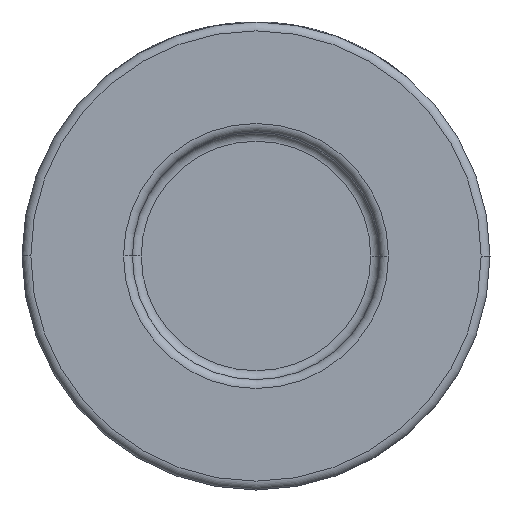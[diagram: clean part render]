
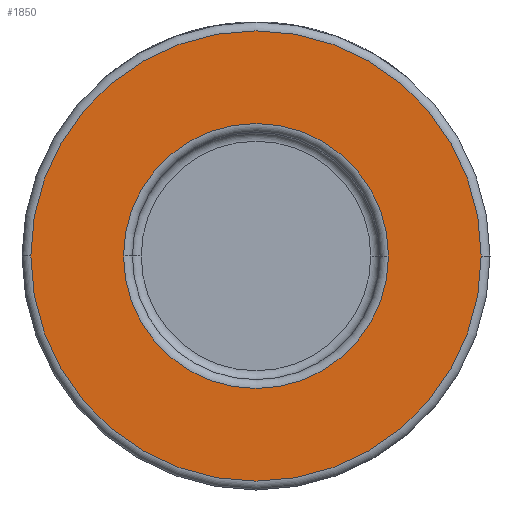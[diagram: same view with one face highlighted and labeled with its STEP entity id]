
A CAD part, front view. The second image highlights one B-rep face of the part: STEP entity #1850.
In plain terms, the highlighted planar face has unit normal (0, -1, 0).
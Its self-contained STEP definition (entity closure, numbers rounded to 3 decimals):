
#157 = DIRECTION ( 'NONE',  ( 1., 0., 0. ) ) ;
#228 = AXIS2_PLACEMENT_3D ( 'NONE', #3533, #3880, #2493 ) ;
#305 = ORIENTED_EDGE ( 'NONE', *, *, #1425, .T. ) ;
#351 = EDGE_LOOP ( 'NONE', ( #305, #4305 ) ) ;
#448 = CARTESIAN_POINT ( 'NONE',  ( 0., -20., 0. ) ) ;
#520 = CARTESIAN_POINT ( 'NONE',  ( 0., -20., 0. ) ) ;
#824 = DIRECTION ( 'NONE',  ( 0., -1., 0. ) ) ;
#1022 = CIRCLE ( 'NONE', #1387, 15. ) ;
#1229 = VERTEX_POINT ( 'NONE', #3223 ) ;
#1383 = CIRCLE ( 'NONE', #228, 15. ) ;
#1387 = AXIS2_PLACEMENT_3D ( 'NONE', #520, #1567, #1915 ) ;
#1425 = EDGE_CURVE ( 'NONE', #1467, #2588, #4114, .T. ) ;
#1467 = VERTEX_POINT ( 'NONE', #4168 ) ;
#1567 = DIRECTION ( 'NONE',  ( 0., 1., 0. ) ) ;
#1790 = EDGE_CURVE ( 'NONE', #2588, #1467, #2788, .T. ) ;
#1823 = EDGE_CURVE ( 'NONE', #2035, #1229, #1383, .T. ) ;
#1850 = ADVANCED_FACE ( 'NONE', ( #3562, #4312 ), #3954, .T. ) ;
#1868 = CARTESIAN_POINT ( 'NONE',  ( -25.5, -20., 0. ) ) ;
#1915 = DIRECTION ( 'NONE',  ( 1., 0., 0. ) ) ;
#2035 = VERTEX_POINT ( 'NONE', #3362 ) ;
#2053 = EDGE_CURVE ( 'NONE', #1229, #2035, #1022, .T. ) ;
#2218 = DIRECTION ( 'NONE',  ( 1., 0., 0. ) ) ;
#2279 = ORIENTED_EDGE ( 'NONE', *, *, #1823, .T. ) ;
#2493 = DIRECTION ( 'NONE',  ( 1., 0., 0. ) ) ;
#2565 = AXIS2_PLACEMENT_3D ( 'NONE', #448, #3248, #157 ) ;
#2588 = VERTEX_POINT ( 'NONE', #1868 ) ;
#2788 = CIRCLE ( 'NONE', #4184, 25.5 ) ;
#3185 = DIRECTION ( 'NONE',  ( 0., -1., 0. ) ) ;
#3223 = CARTESIAN_POINT ( 'NONE',  ( 15., -20., 0. ) ) ;
#3248 = DIRECTION ( 'NONE',  ( 0., -1., 0. ) ) ;
#3324 = EDGE_LOOP ( 'NONE', ( #3826, #2279 ) ) ;
#3362 = CARTESIAN_POINT ( 'NONE',  ( -15., -20., 0. ) ) ;
#3533 = CARTESIAN_POINT ( 'NONE',  ( 0., -20., 0. ) ) ;
#3562 = FACE_BOUND ( 'NONE', #3324, .T. ) ;
#3584 = DIRECTION ( 'NONE',  ( 1., 0., 0. ) ) ;
#3631 = CARTESIAN_POINT ( 'NONE',  ( 26.5, -20., 0. ) ) ;
#3826 = ORIENTED_EDGE ( 'NONE', *, *, #2053, .T. ) ;
#3880 = DIRECTION ( 'NONE',  ( 0., 1., 0. ) ) ;
#3954 = PLANE ( 'NONE',  #3970 ) ;
#3970 = AXIS2_PLACEMENT_3D ( 'NONE', #3631, #3185, #3584 ) ;
#4114 = CIRCLE ( 'NONE', #2565, 25.5 ) ;
#4168 = CARTESIAN_POINT ( 'NONE',  ( 25.5, -20., 0. ) ) ;
#4184 = AXIS2_PLACEMENT_3D ( 'NONE', #4268, #824, #2218 ) ;
#4268 = CARTESIAN_POINT ( 'NONE',  ( 0., -20., 0. ) ) ;
#4305 = ORIENTED_EDGE ( 'NONE', *, *, #1790, .T. ) ;
#4312 = FACE_OUTER_BOUND ( 'NONE', #351, .T. ) ;
